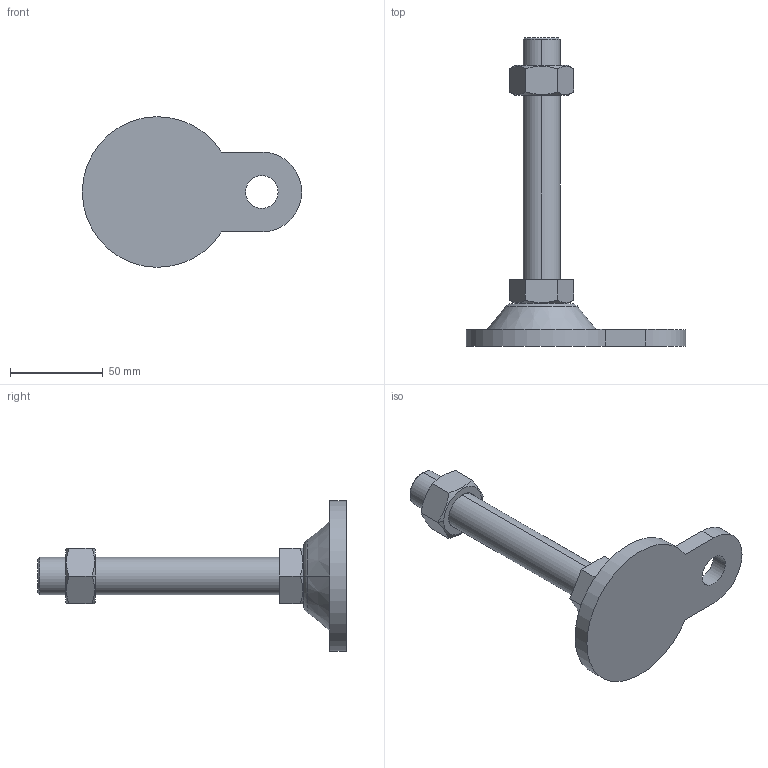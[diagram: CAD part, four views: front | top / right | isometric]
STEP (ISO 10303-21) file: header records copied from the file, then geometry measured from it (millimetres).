
FILE_DESCRIPTION (( 'STEP AP214' ), '1' );
FILE_NAME ('ARB81-M20-130.step', '2021-01-07T07:18:04', ( '' ), ( '' ), 'SwSTEP 2.0', 'SolidWorks 2019', '' );
FILE_SCHEMA (( 'AUTOMOTIVE_DESIGN' ));
Length unit declared in the file: millimetre
Products named in the file (1): ARB81-M20-130
Bounding box: 118 x 166 x 80.98 mm (x, y, z)
Volume: 140816.5 mm3; surface area: 31512.8 mm2
Topology: 3 solids, 3 shells, 46 faces, 100 edges, 62 vertices
Faces by surface type: plane 22, cone 14, cylinder 8, torus 2
Entity records: 1482 total; most frequent: CARTESIAN_POINT 419, DIRECTION 212, ORIENTED_EDGE 200, EDGE_CURVE 100, AXIS2_PLACEMENT_3D 83, VERTEX_POINT 62, EDGE_LOOP 52, VECTOR 46
